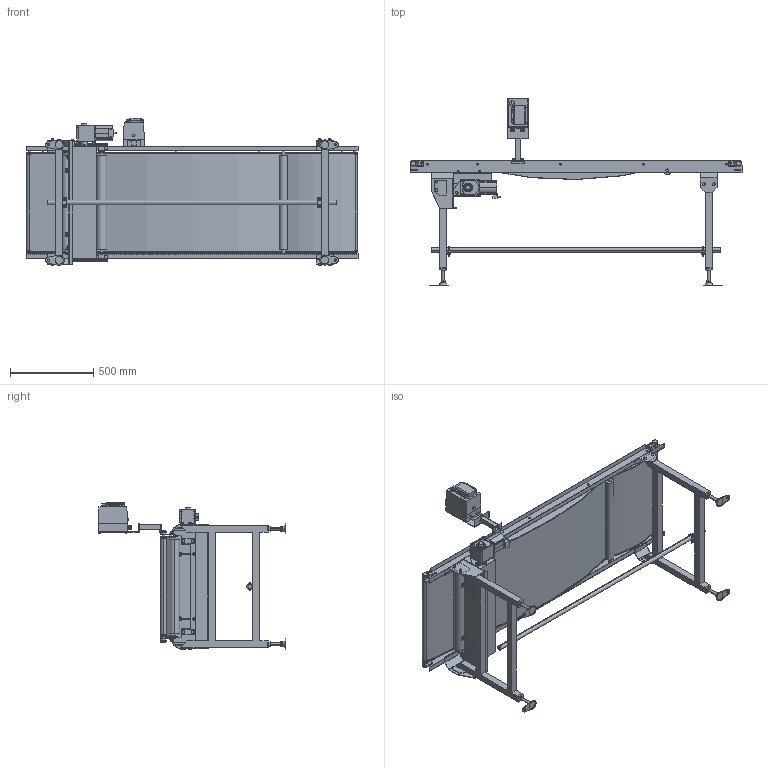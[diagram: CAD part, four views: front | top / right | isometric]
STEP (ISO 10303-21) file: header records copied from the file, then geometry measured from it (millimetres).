
FILE_DESCRIPTION (( 'STEP AP214' ), '1' );
FILE_NAME ('FNS-C-HS-309-600-200-L-IV-100.STEP', '2024-07-04T05:02:18', ( '' ), ( '' ), 'SwSTEP 2.0', 'SolidWorks 2017', '' );
FILE_SCHEMA (( 'AUTOMOTIVE_DESIGN' ));
Length unit declared in the file: millimetre
Products named in the file (1): FNS-C-HS-309-600-200-L-IV-100
Bounding box: 2000 x 1127.5 x 891 mm (x, y, z)
Volume: 135344463.8 mm3; surface area: 6914853.8 mm2
Topology: 27 solids, 28 shells, 1852 faces, 4561 edges, 2959 vertices
Faces by surface type: plane 1204, cylinder 593, cone 37, bspline 14, torus 4
Entity records: 56849 total; most frequent: CARTESIAN_POINT 11542, DIRECTION 9502, ORIENTED_EDGE 9118, EDGE_CURVE 4559, AXIS2_PLACEMENT_3D 3181, LINE 3140, VECTOR 3140, VERTEX_POINT 2959
